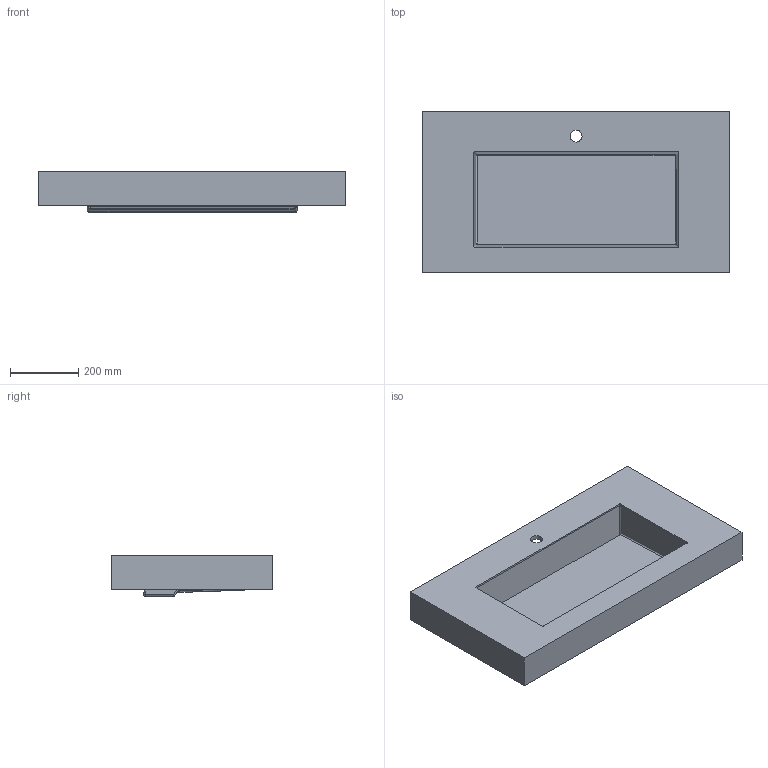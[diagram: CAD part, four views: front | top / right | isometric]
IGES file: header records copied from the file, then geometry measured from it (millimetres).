
Start section: Data from Parasolid IGES Translator 19.0.9, Copyright(c) 2006 Siemens PL M Software. All Rights Reserved.
Global section: file name: noorth-top-H 10 D 47,3 W 90_6535.igs; native system: By Siemens PLM Incorporated; preprocessor: XPlus GENERIC/IGES 19.0.9; author: Noname; organization: Noname; date: 20200603.094455; units: metre
Bounding box: 900 x 473 x 118.64 mm (x, y, z)
Volume: 9155354.9 mm3; surface area: 1544171 mm2
Topology: 1 solids, 1 shells, 109 faces, 270 edges, 157 vertices
Faces by surface type: bspline 42, cylinder 34, plane 33
Full cylindrical faces by diameter (mm): 35 x1
